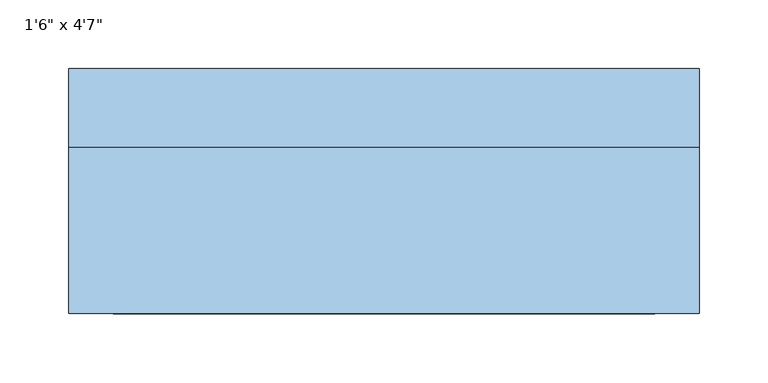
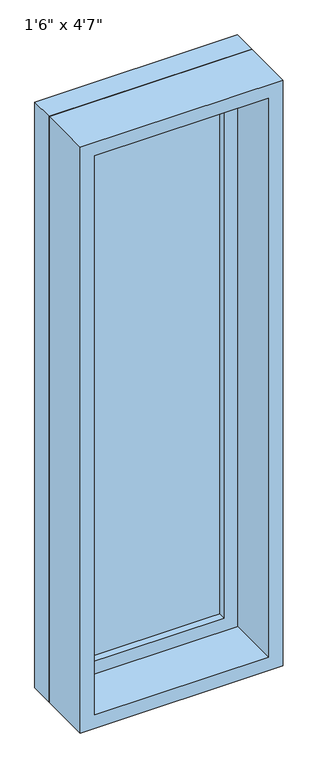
"""IFC4 building model written with IfcOpenShell, lengths in millimetres: window geometry."""

from ifc_helpers import new_model, si_unit, frame, origin, place, context, project, spatial, polyline, outline, extrude, source, transform, mapped, element, save


def window_eb113033(model_context):
    return source(origin(), model_context, "Body", "SweptSolid", [
        extrude(outline(polyline([(2292.4, -209.6), (933.4, -209.6), (933.4, 209.6), (2292.4, 209.6), (2292.4, -209.6)]), holes=[polyline([(2248.4, -165.6), (2248.4, 165.6), (977.4, 165.6), (977.4, -165.6), (2248.4, -165.6)])]), frame((0.0, 45.2, 0.0), z_axis=(0.0, 1.0, 0.0), x_axis=(0.0, 0.0, 1.0)), (0.0, 0.0, 1.0), 44.0),
        extrude(outline(polyline([(2311.4, -228.6), (914.4, -228.6), (914.4, 228.6), (2311.4, 228.6), (2311.4, -228.6)]), holes=[polyline([(2292.4, -209.6), (2292.4, 209.6), (933.4, 209.6), (933.4, -209.6), (2292.4, -209.6)])]), frame((0.0, 45.2, 0.0), z_axis=(0.0, 1.0, 0.0), x_axis=(0.0, 0.0, 1.0)), (0.0, 0.0, 1.0), 56.7),
        extrude(outline(polyline([(2311.4, -228.6), (914.4, -228.6), (914.4, 228.6), (2311.4, 228.6), (2311.4, -228.6)]), holes=[polyline([(2279.4, -196.6), (2279.4, 196.6), (946.4, 196.6), (946.4, -196.6), (2279.4, -196.6)])]), frame((0.0, -75.9, 0.0), z_axis=(0.0, 1.0, 0.0), x_axis=(0.0, 0.0, 1.0)), (0.0, 0.0, 1.0), 121.1),
        extrude(outline(polyline([(-165.6, 73.2), (165.6, 73.2), (165.6, 61.2), (-165.6, 61.2), (-165.6, 73.2)])), frame((0.0, 0.0, 977.4), z_axis=(0.0, 0.0, 1.0), x_axis=(1.0, 0.0, 0.0)), (0.0, 0.0, 1.0), 1271.0),
    ])


if __name__ == "__main__":
    model = new_model("IFC4")
    model_context = context("Model", 3, world=origin())
    ifc_project = project(units=[si_unit("LENGTHUNIT", "METRE", prefix="MILLI")], contexts=[model_context])
    site = spatial("IfcSite", under=ifc_project)
    building = spatial("IfcBuilding", under=site)
    placement = place(None, origin())
    window_shape = window_eb113033(model_context)
    element("IfcWindow", 1, ObjectType="Planitar-Fixed : 1'6\" x 4'7\"", at=placement, inside=building, context=model_context, shape_type="MappedRepresentation", body=[
        mapped(window_shape, transform((0.0, 0.0, 0.0), x_axis=(1.0, 0.0, 0.0), y_axis=(0.0, 1.0, 0.0), z_axis=(0.0, 0.0, 1.0))),
    ])
    save(model, "model.ifc")
